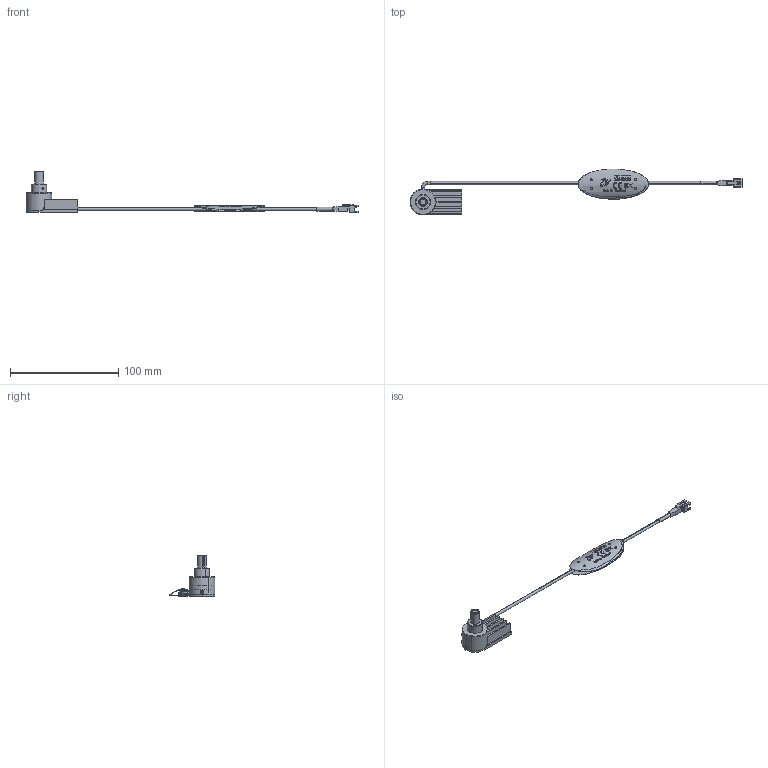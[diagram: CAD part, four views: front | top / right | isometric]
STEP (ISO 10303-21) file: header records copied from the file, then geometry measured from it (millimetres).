
FILE_DESCRIPTION(('STEP AP214'),'1');
FILE_NAME('VSPL-A07-2P_DRAWING_3D.step','2024-03-04T03:05:59',(' '),(' '),'Spatial InterOp 3D',' ',' ');
FILE_SCHEMA(('AUTOMOTIVE_DESIGN { 1 0 10303 214 1 1 1 1 }'));
Length unit declared in the file: millimetre
Products named in the file (12): HEATSINK; CAP; BASE; DIFFUSER; ACRYLIC ROD 6x20; MXB4508; MXB4510; MXB0164; CABLE 2P; CABEL TAG (VS); VSPL-A07-2P_DRAWING_3D
Assembly tree (18 placements, depth 2):
  (unnamed)
    HEATSINK
    CAP
    BASE
    DIFFUSER
    ACRYLIC ROD 6x20
    MXB4508  x7
    MXB4510
    MXB0164  x2
    CABLE 2P
    CABEL TAG (VS)
    VSPL-A07-2P_DRAWING_3D
Bounding box: 307 x 42.5 x 38.7 mm (x, y, z)
Volume: 14468.9 mm3; surface area: 20769.7 mm2
Topology: 18 solids, 43 shells, 608 faces, 1743 edges, 1269 vertices
Faces by surface type: plane 304, cylinder 215, cone 64, torus 13, bspline 12
Entity records: 24518 total; most frequent: CARTESIAN_POINT 8212, ORIENTED_EDGE 2822, DIRECTION 2301, EDGE_CURVE 1411, VERTEX_POINT 1055, AXIS2_PLACEMENT_3D 800, LINE 701, VECTOR 701
